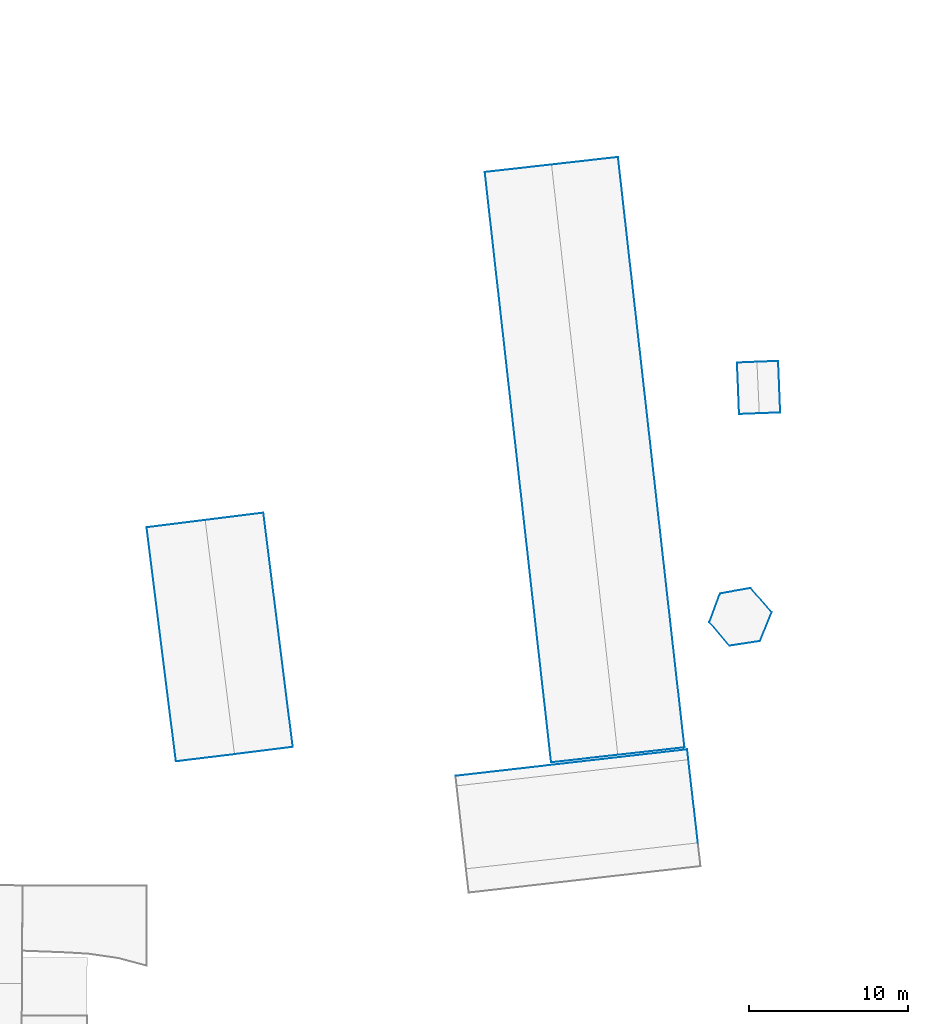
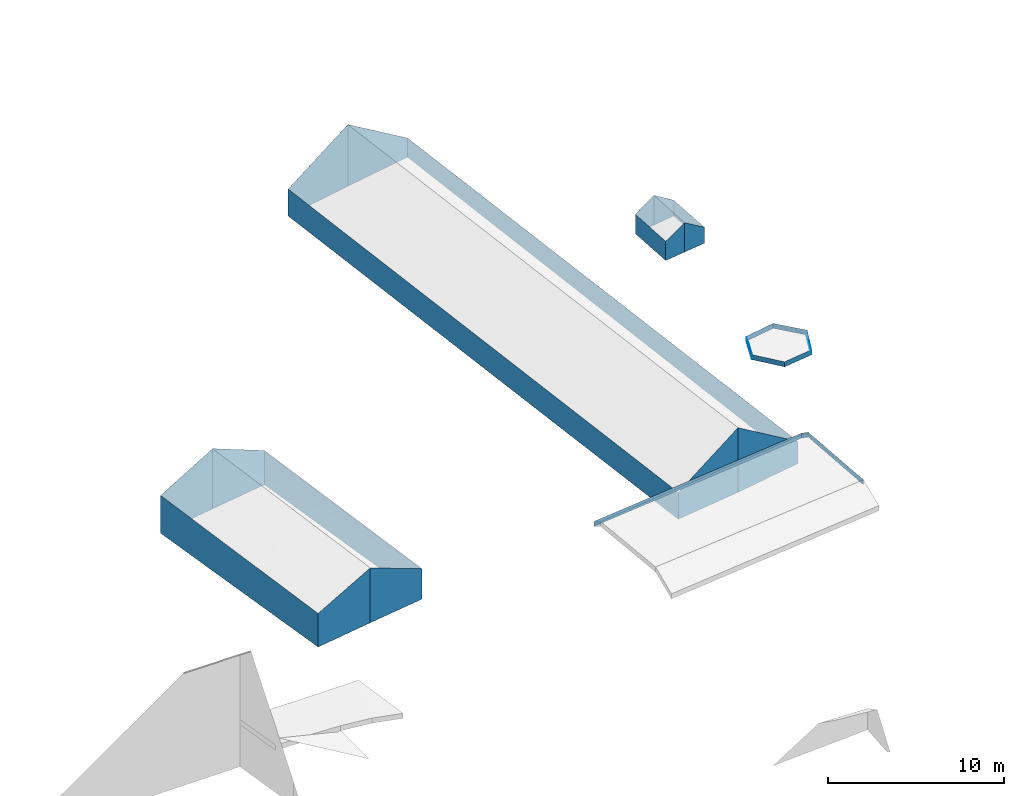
# Not in any storey, part 25 of 57: 36 walls.
"""IFC2X3 building model written with IfcOpenShell, lengths in metres."""

import ifcopenshell
import ifcopenshell.guid

model = None  # the IFC model being written
_history = None  # IfcOwnerHistory: only IFC2X3 demands one
_inside = {}  # id of a spatial element -> (the spatial element, [elements in it])
_under = {}  # id of a project, library or spatial element -> (it, [spatial elements below it])
_declared = {}  # id of a project -> (the project, [libraries it declares])
_typed = {}  # id of a type object -> (the type object, [elements of that type])
_made_of = {}  # id of a material, layer set ... -> (it, [elements and type objects made of it])


def new_model(schema):
    """Start an empty IFC model of exactly this schema.

    Asked for "IFC4X3", IfcOpenShell would pick the latest addendum, in which some entities
    have other attributes; the version numbers below select the first issue.
    IFC2X3 requires an IfcOwnerHistory on every rooted entity: one is made here for all.
    """
    global model, _history
    if schema == "IFC4X3":
        model = ifcopenshell.file(schema_version=(4, 3, 0, 0))
    else:
        model = ifcopenshell.file(schema=schema)
    _inside.clear()
    _under.clear()
    _declared.clear()
    _typed.clear()
    _made_of.clear()
    _history = None
    if model.schema == "IFC2X3":
        org = make("IfcOrganization", Name="unknown")
        user = make(
            "IfcPersonAndOrganization",
            ThePerson=make("IfcPerson", FamilyName="unknown"),
            TheOrganization=org,
        )
        app = make(
            "IfcApplication",
            ApplicationDeveloper=org,
            Version="unknown",
            ApplicationFullName="unknown",
            ApplicationIdentifier="unknown",
        )
        _history = make(
            "IfcOwnerHistory",
            OwningUser=user,
            OwningApplication=app,
            ChangeAction="ADDED",
            CreationDate=0,
        )
    return model


def make(cls, **values):
    """One entity of the class cls with the attributes given. An attribute that is None is left unset."""
    return model.create_entity(
        cls, **{name: value for name, value in values.items() if value is not None}
    )


def entity(cls, *values):
    """Any entity or typed value of the class cls, its attributes in the order of the schema. None: left unset."""
    e = model.create_entity(cls)
    for i, value in enumerate(values):
        if value is not None:
            e[i] = value
    return e


def rooted(cls, **values):
    """An entity with a GlobalId (a new one), such as an element, a storey or a relation."""
    return make(cls, GlobalId=ifcopenshell.guid.new(), OwnerHistory=_history, **values)


def si_unit(unit_type, name, prefix=None):
    """IfcSIUnit, for example si_unit("LENGTHUNIT", "METRE", prefix="MILLI")."""
    return make("IfcSIUnit", UnitType=unit_type, Prefix=prefix, Name=name)


def converted_unit(unit_type, name, factor, base, dimensions=None, offset=None):
    """IfcConversionBasedUnit, such as the inch: factor (a typed value) times the base unit."""
    return make(
        "IfcConversionBasedUnit"
        if offset is None
        else "IfcConversionBasedUnitWithOffset",
        ConversionOffset=offset,
        Dimensions=None
        if dimensions is None
        else entity("IfcDimensionalExponents", *dimensions),
        UnitType=unit_type,
        Name=name,
        ConversionFactor=make(
            "IfcMeasureWithUnit", ValueComponent=factor, UnitComponent=base
        ),
    )


def assignment(units):
    """IfcUnitAssignment: the units of a project."""
    return None if units is None else make("IfcUnitAssignment", Units=units)


def point(xyz):
    """IfcCartesianPoint."""
    return None if xyz is None else make("IfcCartesianPoint", Coordinates=xyz)


def direction(xyz):
    """IfcDirection."""
    return None if xyz is None else make("IfcDirection", DirectionRatios=xyz)


def frame(location, z_axis=None, x_axis=None):
    """IfcAxis2Placement3D, a coordinate frame: its origin and axes. An axis left out is left unset."""
    return make(
        "IfcAxis2Placement3D",
        Location=point(location),
        Axis=direction(z_axis),
        RefDirection=direction(x_axis),
    )


def origin():
    """The frame at (0, 0, 0) with its axes left unset."""
    return frame((0.0, 0.0, 0.0))


def place(relative_to, where):
    """IfcLocalPlacement: puts the frame where relative to a parent placement (None: the world)."""
    return make(
        "IfcLocalPlacement", PlacementRelTo=relative_to, RelativePlacement=where
    )


def context(
    kind, dimensions, precision=None, world=None, true_north=None, identifier=None
):
    """IfcGeometricRepresentationContext, for example the 3D "Model" context."""
    return make(
        "IfcGeometricRepresentationContext",
        ContextIdentifier=identifier,
        ContextType=kind,
        CoordinateSpaceDimension=dimensions,
        Precision=precision,
        WorldCoordinateSystem=world,
        TrueNorth=true_north,
    )


def subcontext(parent, identifier, kind, view, scale=None):
    """IfcGeometricRepresentationSubContext, for example "Body" below "Model"."""
    return make(
        "IfcGeometricRepresentationSubContext",
        ContextIdentifier=identifier,
        ContextType=kind,
        ParentContext=parent,
        TargetScale=scale,
        TargetView=view,
    )


def project(units=None, contexts=None):
    """IfcProject with its units and contexts."""
    return rooted(
        "IfcProject",
        Name="project",
        RepresentationContexts=contexts,
        UnitsInContext=assignment(units),
    )


def spatial(cls, under=None, at=None, **own):
    """A site, building, storey or space (cls), placed at a placement, below another one or the project."""
    s = rooted(cls, ObjectPlacement=at, **own)
    if under is not None:
        _under.setdefault(under.id(), (under, []))[1].append(s)
    return s


def faces_of(points, faces, orient=None, outer=None):
    """IfcFace entities. A face is a list of loops; a loop is a list of indices into points, from 0.

    orient and outer hold one flag for each loop. By default every Orientation is true, the
    first loop of a face is its IfcFaceOuterBound and the others are IfcFaceBound.
    """
    made = []
    for i, loops in enumerate(faces):
        bounds = []
        for j, loop in enumerate(loops):
            is_outer = j == 0 if outer is None else outer[i][j]
            bounds.append(
                make(
                    "IfcFaceOuterBound" if is_outer else "IfcFaceBound",
                    Bound=make("IfcPolyLoop", Polygon=[points[k] for k in loop]),
                    Orientation=True if orient is None else orient[i][j],
                )
            )
        made.append(make("IfcFace", Bounds=bounds))
    return made


def face_set(faces, orient=None, outer=None):
    """The faces of one IfcConnectedFaceSet. surface_model builds it on its shared points."""
    return ("IfcConnectedFaceSet", faces, orient, outer)


def surface_model(cls, points, shells):
    """IfcFaceBasedSurfaceModel or IfcShellBasedSurfaceModel (cls): surfaces that need not close."""
    shared = [point(p) for p in points]
    made = [make(c, CfsFaces=faces_of(shared, fs, o, b)) for c, fs, o, b in shells]
    if cls == "IfcFaceBasedSurfaceModel":
        return make(cls, FbsmFaces=made)
    return make(cls, SbsmBoundary=made)


def shape(context_of_items, identifier, shape_type, items):
    """IfcShapeRepresentation: the items that make up one representation, for example the "Body"."""
    return make(
        "IfcShapeRepresentation",
        ContextOfItems=context_of_items,
        RepresentationIdentifier=identifier,
        RepresentationType=shape_type,
        Items=items,
    )


def made_of(thing, what):
    """Note that an element or type object is made of a material, layer set ...; save() writes the relation."""
    if what is not None:
        _made_of.setdefault(what.id(), (what, []))[1].append(thing)
    return thing


def element(
    cls,
    number,
    at=None,
    inside=None,
    cuts=None,
    type_object=None,
    material=None,
    context=None,
    identifier="Body",
    shape_type=None,
    held_by="IfcProductDefinitionShape",
    body=None,
    shapes=None,
    **own,
):
    """One element of the class cls, such as IfcWall. Its Tag is "e" and its number.

    at: its placement. inside: the storey or other place that contains it. cuts: it is an
    opening in that element (IfcRelVoidsElement). A single representation is given by context,
    identifier, shape_type and body (its items); several are given by shapes. held_by: the class
    of the entity that holds the representations. save() writes the other relations.
    """
    e = rooted(cls, Tag="e%d" % number, ObjectPlacement=at, **own)
    if body is not None:
        shapes = [shape(context, identifier, shape_type, body)]
    if shapes is not None:
        e.Representation = make(held_by, Representations=shapes)
    if inside is not None:
        _inside.setdefault(inside.id(), (inside, []))[1].append(e)
    if cuts is not None:
        rooted(
            "IfcRelVoidsElement", RelatingBuildingElement=cuts, RelatedOpeningElement=e
        )
    if type_object is not None:
        _typed.setdefault(type_object.id(), (type_object, []))[1].append(e)
    return made_of(e, material)


def aggregate(whole, parts):
    """IfcRelAggregates: a whole, such as a stair, and the parts it consists of."""
    return rooted("IfcRelAggregates", RelatingObject=whole, RelatedObjects=parts)


def save(model, path):
    """Write the relations noted so far, then the file.

    IfcRelAggregates (storeys below a building ...), IfcRelContainedInSpatialStructure (elements
    in a storey), IfcRelDefinesByType, IfcRelAssociatesMaterial and IfcRelDeclares: one each for
    every whole, place, type object, material and project.
    """
    for whole, parts in _under.values():
        aggregate(whole, parts)
    for where, things in _inside.values():
        rooted(
            "IfcRelContainedInSpatialStructure",
            RelatedElements=things,
            RelatingStructure=where,
        )
    for kind, things in _typed.values():
        rooted("IfcRelDefinesByType", RelatedObjects=things, RelatingType=kind)
    for what, things in _made_of.values():
        rooted("IfcRelAssociatesMaterial", RelatedObjects=things, RelatingMaterial=what)
    for by, libraries in _declared.values():
        rooted("IfcRelDeclares", RelatingContext=by, RelatedDefinitions=libraries)
    model.write(path)


model = new_model("IFC2X3")

# Units and contexts
model_context = context("Model", 3, precision=1e-05, world=origin())
body_context = subcontext(model_context, "Body", "Model", "MODEL_VIEW")
ifc_project = project(units=[converted_unit("PLANEANGLEUNIT", "DEGREE", entity("IfcRatioMeasure", 0.0174532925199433), si_unit("PLANEANGLEUNIT", "RADIAN"), dimensions=[0, 0, 0, 0, 0, 0, 0]), si_unit("AREAUNIT", "SQUARE_METRE"), si_unit("LENGTHUNIT", "METRE")], contexts=[model_context])

# Site, building
site_placement = place(None, origin())
site = spatial("IfcSite", under=ifc_project, at=site_placement, Name="_site", CompositionType="ELEMENT")
building_1_placement = place(site_placement, origin())
building_1 = spatial("IfcBuilding", under=site, at=building_1_placement, Name="_building", CompositionType="ELEMENT")

# Walls
wall_1_placement = place(building_1_placement, origin())
element("IfcWall", 1, at=wall_1_placement, inside=building_1, Name="Wall", context=body_context, shape_type="SurfaceModel", body=[
    surface_model("IfcFaceBasedSurfaceModel", [(145.88, 162.609, 213.69), (144.56, 162.561, 214.49), (144.56, 162.561, 212.454), (145.88, 162.609, 212.575)], [face_set([[[0, 1, 2, 3]]])]),
])
wall_2_placement = place(building_1_placement, origin())
element("IfcWall", 2, at=wall_2_placement, inside=building_1, Name="Wall", context=body_context, shape_type="SurfaceModel", body=[
    surface_model("IfcFaceBasedSurfaceModel", [(144.41, 165.789, 214.49), (145.75, 165.84, 213.64), (145.75, 165.84, 212.552), (144.41, 165.789, 212.411)], [face_set([[[0, 1, 2, 3]]])]),
])
wall_3_placement = place(building_1_placement, origin())
element("IfcWall", 3, at=wall_3_placement, inside=building_1, Name="Wall", context=body_context, shape_type="SurfaceModel", body=[
    surface_model("IfcFaceBasedSurfaceModel", [(144.56, 162.561, 214.49), (143.3, 162.51, 213.68), (143.3, 162.51, 212.34), (144.56, 162.561, 212.454)], [face_set([[[0, 1, 2, 3]]])]),
])
wall_4_placement = place(building_1_placement, origin())
element("IfcWall", 4, at=wall_4_placement, inside=building_1, Name="Wall", context=body_context, shape_type="SurfaceModel", body=[
    surface_model("IfcFaceBasedSurfaceModel", [(143.17, 165.74, 213.63), (144.41, 165.789, 214.49), (144.41, 165.789, 212.411), (143.17, 165.74, 212.293)], [face_set([[[0, 1, 2, 3]]])]),
])
wall_5_placement = place(building_1_placement, origin())
element("IfcWall", 5, at=wall_5_placement, inside=building_1, Name="Wall", context=body_context, shape_type="SurfaceModel", body=[
    surface_model("IfcFaceBasedSurfaceModel", [(145.75, 165.84, 213.64), (145.88, 162.609, 213.69), (145.88, 162.609, 212.575), (145.75, 165.84, 212.552)], [face_set([[[0, 1, 2, 3]]])]),
])
wall_6_placement = place(building_1_placement, origin())
element("IfcWall", 6, at=wall_6_placement, inside=building_1, Name="Wall", context=body_context, shape_type="SurfaceModel", body=[
    surface_model("IfcFaceBasedSurfaceModel", [(143.3, 162.51, 213.68), (143.17, 165.74, 213.63), (143.17, 165.74, 212.293), (143.3, 162.51, 212.34)], [face_set([[[0, 1, 2, 3]]])]),
])

# Building
building_2_placement = place(site_placement, origin())
building_2 = spatial("IfcBuilding", under=site, at=building_2_placement, Name="_building", CompositionType="ELEMENT")

# Walls
wall_7_placement = place(building_2_placement, origin())
element("IfcWall", 7, at=wall_7_placement, inside=building_2, Name="Wall", context=body_context, shape_type="SurfaceModel", body=[
    surface_model("IfcFaceBasedSurfaceModel", [(131.52, 178.17, 216.39), (135.7, 178.641, 213.71), (135.7, 178.641, 212.376), (131.52, 178.17, 212.106)], [face_set([[[0, 1, 2, 3]]])]),
])
wall_8_placement = place(building_2_placement, origin())
element("IfcWall", 8, at=wall_8_placement, inside=building_2, Name="Wall", context=body_context, shape_type="SurfaceModel", body=[
    surface_model("IfcFaceBasedSurfaceModel", [(139.87, 141.59, 213.71), (135.68, 141.119, 216.41), (135.68, 141.119, 211.924), (139.87, 141.59, 212.166)], [face_set([[[0, 1, 2, 3]]])]),
])
wall_9_placement = place(building_2_placement, origin())
element("IfcWall", 9, at=wall_9_placement, inside=building_2, Name="Wall", context=body_context, shape_type="SurfaceModel", body=[
    surface_model("IfcFaceBasedSurfaceModel", [(135.68, 141.119, 216.41), (131.5, 140.65, 213.68), (131.5, 140.65, 211.811), (135.68, 141.119, 211.924)], [face_set([[[0, 1, 2, 3]]])]),
])
wall_10_placement = place(building_2_placement, origin())
element("IfcWall", 10, at=wall_10_placement, inside=building_2, Name="Wall", context=body_context, shape_type="SurfaceModel", body=[
    surface_model("IfcFaceBasedSurfaceModel", [(127.34, 177.699, 213.67), (131.52, 178.17, 216.39), (131.52, 178.17, 212.106), (127.34, 177.699, 211.8)], [face_set([[[0, 1, 2, 3]]])]),
])
wall_11_placement = place(building_2_placement, origin())
element("IfcWall", 11, at=wall_11_placement, inside=building_2, Name="Wall", context=body_context, shape_type="SurfaceModel", body=[
    surface_model("IfcFaceBasedSurfaceModel", [(135.7, 178.641, 213.71), (139.87, 141.59, 213.71), (139.87, 141.59, 212.166), (135.7, 178.641, 212.376)], [face_set([[[0, 1, 2, 3]]])]),
])
wall_12_placement = place(building_2_placement, origin())
element("IfcWall", 12, at=wall_12_placement, inside=building_2, Name="Wall", context=body_context, shape_type="SurfaceModel", body=[
    surface_model("IfcFaceBasedSurfaceModel", [(131.5, 140.65, 213.68), (127.34, 177.699, 213.67), (127.34, 177.699, 211.8), (131.5, 140.65, 211.811)], [face_set([[[0, 1, 2, 3]]])]),
])

# Building
building_3_placement = place(site_placement, origin())
building_3 = spatial("IfcBuilding", under=site, at=building_3_placement, Name="_building", CompositionType="ELEMENT")

# Walls
wall_13_placement = place(building_3_placement, origin())
element("IfcWall", 13, at=wall_13_placement, inside=building_3, Name="Wall", context=body_context, shape_type="SurfaceModel", body=[
    surface_model("IfcFaceBasedSurfaceModel", [(115.28, 141.619, 213.48), (111.62, 141.16, 215.1), (111.62, 141.16, 211.297), (115.28, 141.619, 211.381)], [face_set([[[0, 1, 2, 3]]])]),
])
wall_14_placement = place(building_3_placement, origin())
element("IfcWall", 14, at=wall_14_placement, inside=building_3, Name="Wall", context=body_context, shape_type="SurfaceModel", body=[
    surface_model("IfcFaceBasedSurfaceModel", [(111.62, 141.16, 215.1), (107.95, 140.711, 213.5), (107.95, 140.711, 211.174), (111.62, 141.16, 211.297)], [face_set([[[0, 1, 2, 3]]])]),
])
wall_15_placement = place(building_3_placement, origin())
element("IfcWall", 15, at=wall_15_placement, inside=building_3, Name="Wall", context=body_context, shape_type="SurfaceModel", body=[
    surface_model("IfcFaceBasedSurfaceModel", [(109.78, 155.859, 215.09), (113.44, 156.32, 213.4), (113.44, 156.32, 211.026), (109.78, 155.859, 210.908)], [face_set([[[0, 1, 2, 3]]])]),
])
wall_16_placement = place(building_3_placement, origin())
element("IfcWall", 16, at=wall_16_placement, inside=building_3, Name="Wall", context=body_context, shape_type="SurfaceModel", body=[
    surface_model("IfcFaceBasedSurfaceModel", [(106.11, 155.4, 213.41), (109.78, 155.859, 215.09), (109.78, 155.859, 210.908), (106.11, 155.4, 210.793)], [face_set([[[0, 1, 2, 3]]])]),
])
wall_17_placement = place(building_3_placement, origin())
element("IfcWall", 17, at=wall_17_placement, inside=building_3, Name="Wall", context=body_context, shape_type="SurfaceModel", body=[
    surface_model("IfcFaceBasedSurfaceModel", [(113.44, 156.32, 213.4), (115.28, 141.619, 213.48), (115.28, 141.619, 211.381), (113.44, 156.32, 211.026)], [face_set([[[0, 1, 2, 3]]])]),
])
wall_18_placement = place(building_3_placement, origin())
element("IfcWall", 18, at=wall_18_placement, inside=building_3, Name="Wall", context=body_context, shape_type="SurfaceModel", body=[
    surface_model("IfcFaceBasedSurfaceModel", [(107.95, 140.711, 213.5), (106.11, 155.4, 213.41), (106.11, 155.4, 210.793), (107.95, 140.711, 211.174)], [face_set([[[0, 1, 2, 3]]])]),
])

# Building
building_4_placement = place(site_placement, origin())
building_4 = spatial("IfcBuilding", under=site, at=building_4_placement, Name="_building", CompositionType="ELEMENT")

# Walls
wall_19_placement = place(building_4_placement, origin())
element("IfcWall", 19, at=wall_19_placement, inside=building_4, Name="Wall", context=body_context, shape_type="SurfaceModel", body=[
    surface_model("IfcFaceBasedSurfaceModel", [(141.43, 149.461, 214.39), (142.1, 151.25, 214.36), (142.1, 151.25, 214.01), (141.43, 149.461, 214.04)], [face_set([[[0, 1, 2, 3]]])]),
])
wall_20_placement = place(building_4_placement, origin())
element("IfcWall", 20, at=wall_20_placement, inside=building_4, Name="Wall", context=body_context, shape_type="SurfaceModel", body=[
    surface_model("IfcFaceBasedSurfaceModel", [(142.69, 147.971, 214.36), (141.43, 149.461, 214.39), (141.43, 149.461, 214.04), (142.69, 147.971, 214.01)], [face_set([[[0, 1, 2, 3]]])]),
])
wall_21_placement = place(building_4_placement, origin())
element("IfcWall", 21, at=wall_21_placement, inside=building_4, Name="Wall", context=body_context, shape_type="SurfaceModel", body=[
    surface_model("IfcFaceBasedSurfaceModel", [(141.43, 149.461, 214.39), (142.1, 151.25, 214.36), (142.1, 151.25, 214.01), (141.43, 149.461, 214.04)], [face_set([[[0, 1, 2, 3]]])]),
])
wall_22_placement = place(building_4_placement, origin())
element("IfcWall", 22, at=wall_22_placement, inside=building_4, Name="Wall", context=body_context, shape_type="SurfaceModel", body=[
    surface_model("IfcFaceBasedSurfaceModel", [(142.69, 147.971, 214.36), (141.43, 149.461, 214.39), (141.43, 149.461, 214.04), (142.69, 147.971, 214.01)], [face_set([[[0, 1, 2, 3]]])]),
])
wall_23_placement = place(building_4_placement, origin())
element("IfcWall", 23, at=wall_23_placement, inside=building_4, Name="Wall", context=body_context, shape_type="SurfaceModel", body=[
    surface_model("IfcFaceBasedSurfaceModel", [(144.03, 151.59, 214.36), (145.34, 150.07, 214.36), (145.34, 150.07, 214.01), (144.03, 151.59, 214.01)], [face_set([[[0, 1, 2, 3]]])]),
])
wall_24_placement = place(building_4_placement, origin())
element("IfcWall", 24, at=wall_24_placement, inside=building_4, Name="Wall", context=body_context, shape_type="SurfaceModel", body=[
    surface_model("IfcFaceBasedSurfaceModel", [(142.1, 151.25, 214.36), (144.03, 151.59, 214.36), (144.03, 151.59, 214.01), (142.1, 151.25, 214.01)], [face_set([[[0, 1, 2, 3]]])]),
])
wall_25_placement = place(building_4_placement, origin())
element("IfcWall", 25, at=wall_25_placement, inside=building_4, Name="Wall", context=body_context, shape_type="SurfaceModel", body=[
    surface_model("IfcFaceBasedSurfaceModel", [(144.03, 151.59, 214.36), (145.34, 150.07, 214.36), (145.34, 150.07, 214.01), (144.03, 151.59, 214.01)], [face_set([[[0, 1, 2, 3]]])]),
])
wall_26_placement = place(building_4_placement, origin())
element("IfcWall", 26, at=wall_26_placement, inside=building_4, Name="Wall", context=body_context, shape_type="SurfaceModel", body=[
    surface_model("IfcFaceBasedSurfaceModel", [(142.1, 151.25, 214.36), (144.03, 151.59, 214.36), (144.03, 151.59, 214.01), (142.1, 151.25, 214.01)], [face_set([[[0, 1, 2, 3]]])]),
])
wall_27_placement = place(building_4_placement, origin())
element("IfcWall", 27, at=wall_27_placement, inside=building_4, Name="Wall", context=body_context, shape_type="SurfaceModel", body=[
    surface_model("IfcFaceBasedSurfaceModel", [(145.34, 150.07, 214.36), (144.6, 148.26, 214.34), (144.6, 148.26, 213.99), (145.34, 150.07, 214.01)], [face_set([[[0, 1, 2, 3]]])]),
])
wall_28_placement = place(building_4_placement, origin())
element("IfcWall", 28, at=wall_28_placement, inside=building_4, Name="Wall", context=body_context, shape_type="SurfaceModel", body=[
    surface_model("IfcFaceBasedSurfaceModel", [(144.6, 148.26, 214.34), (142.69, 147.971, 214.36), (142.69, 147.971, 214.01), (144.6, 148.26, 213.99)], [face_set([[[0, 1, 2, 3]]])]),
])
wall_29_placement = place(building_4_placement, origin())
element("IfcWall", 29, at=wall_29_placement, inside=building_4, Name="Wall", context=body_context, shape_type="SurfaceModel", body=[
    surface_model("IfcFaceBasedSurfaceModel", [(145.34, 150.07, 214.36), (144.6, 148.26, 214.34), (144.6, 148.26, 213.99), (145.34, 150.07, 214.01)], [face_set([[[0, 1, 2, 3]]])]),
])
wall_30_placement = place(building_4_placement, origin())
element("IfcWall", 30, at=wall_30_placement, inside=building_4, Name="Wall", context=body_context, shape_type="SurfaceModel", body=[
    surface_model("IfcFaceBasedSurfaceModel", [(144.6, 148.26, 214.34), (142.69, 147.971, 214.36), (142.69, 147.971, 214.01), (144.6, 148.26, 213.99)], [face_set([[[0, 1, 2, 3]]])]),
])

# Building
building_5_placement = place(site_placement, origin())
building_5 = spatial("IfcBuilding", under=site, at=building_5_placement, Name="_building", CompositionType="ELEMENT")

# Walls
for number, where, name in (
    (31, (0.0, 0.0, 0.0), "Wall"),
    (32, (0.0, 0.0, 0.0), "Wall"),
):
    element("IfcWall", number, at=place(building_5_placement, frame(where)), inside=building_5, Name=name, context=body_context, shape_type="SurfaceModel", body=[
        surface_model("IfcFaceBasedSurfaceModel", [(140.11, 140.82, 214.73), (140.71, 135.6, 214.39), (140.71, 135.6, 214.04), (140.11, 140.82, 214.38)], [face_set([[[0, 1, 2, 3]]])]),
    ])
for number, where, name in (
    (33, (0.0, 0.0, 0.0), "Wall"),
    (34, (0.0, 0.0, 0.0), "Wall"),
):
    element("IfcWall", number, at=place(building_5_placement, frame(where)), inside=building_5, Name=name, context=body_context, shape_type="SurfaceModel", body=[
        surface_model("IfcFaceBasedSurfaceModel", [(140.04, 141.461, 214.3), (140.11, 140.82, 214.73), (140.11, 140.82, 214.38), (140.04, 141.461, 213.95)], [face_set([[[0, 1, 2, 3]]])]),
    ])
for number, where, name in (
    (35, (0.0, 0.0, 0.0), "Wall"),
    (36, (0.0, 0.0, 0.0), "Wall"),
):
    element("IfcWall", number, at=place(building_5_placement, frame(where)), inside=building_5, Name=name, context=body_context, shape_type="SurfaceModel", body=[
        surface_model("IfcFaceBasedSurfaceModel", [(125.5, 139.801, 214.29), (140.04, 141.461, 214.3), (140.04, 141.461, 213.95), (125.5, 139.801, 213.94)], [face_set([[[0, 1, 2, 3]]])]),
    ])

save(model, "model.ifc")
